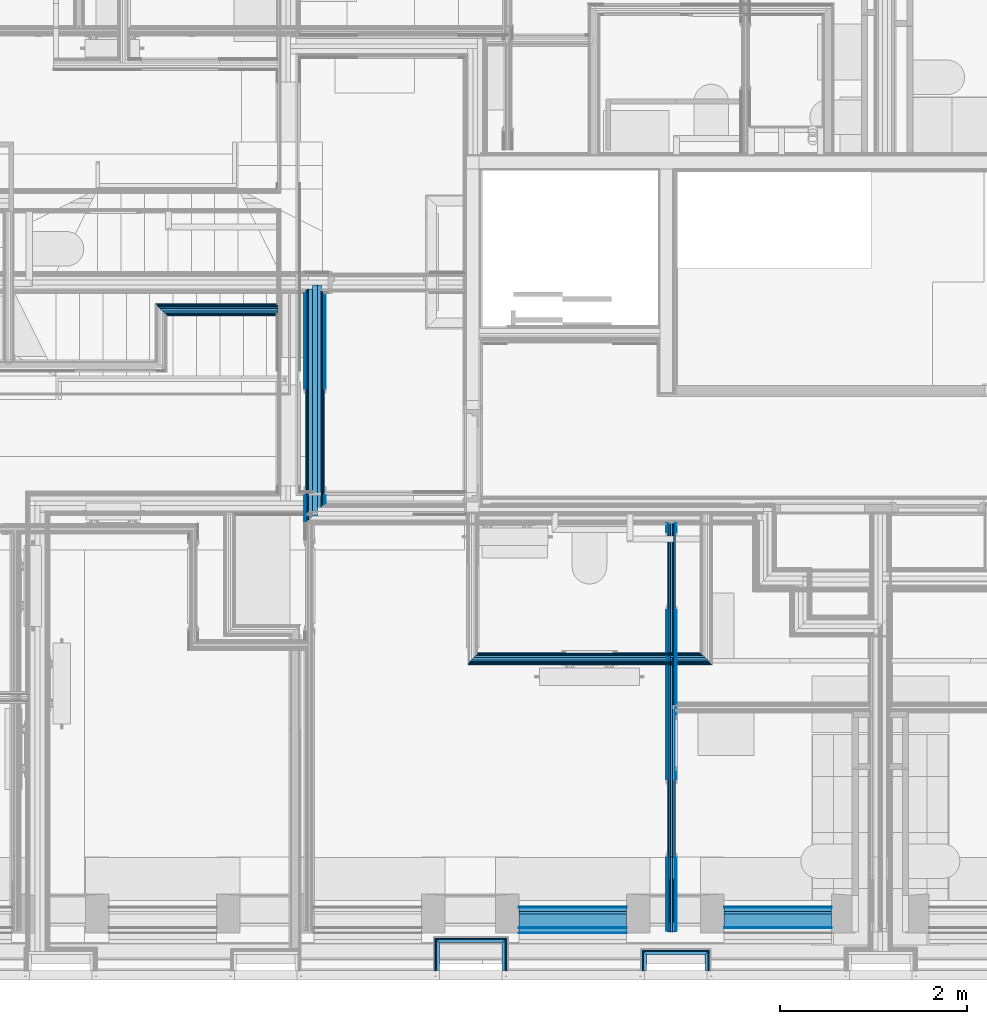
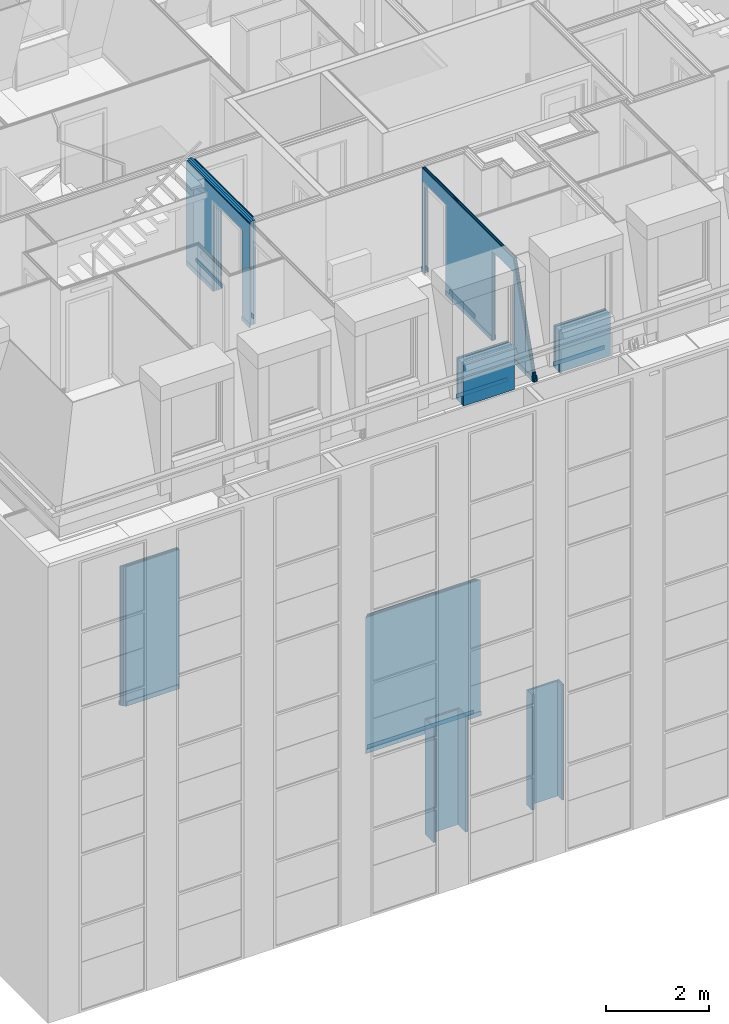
# One storey, part 19 of 169: 58 building element parts, 3 openings, 12 elements without a shape of their own.
"""IFC2X3 building model written with IfcOpenShell, lengths in metres."""

from ifc_helpers import new_model, entity, si_unit, converted_unit, derived_unit, money_unit, direction, frame, frame_2d, origin_with_axes, place, context, subcontext, project, spatial, polyline, rectangle, outline, extrude, clip, halfspace, material, type_object, element, aggregate, save


model = new_model("IFC2X3")

# Units and contexts
model_context = context("Model", 3, precision=1e-05, world=origin_with_axes(), true_north=direction((0.0, 1.0)))
body_context = subcontext(model_context, "Body", "Model", "MODEL_VIEW", scale=1.0)
ifc_project = project(units=[si_unit("LENGTHUNIT", "METRE"), si_unit("AREAUNIT", "SQUARE_METRE"), si_unit("VOLUMEUNIT", "CUBIC_METRE"), si_unit("ABSORBEDDOSEUNIT", "GRAY"), si_unit("AMOUNTOFSUBSTANCEUNIT", "MOLE"), si_unit("DOSEEQUIVALENTUNIT", "SIEVERT"), si_unit("ELECTRICCAPACITANCEUNIT", "FARAD"), si_unit("ELECTRICCHARGEUNIT", "COULOMB"), si_unit("ELECTRICCONDUCTANCEUNIT", "SIEMENS"), si_unit("ELECTRICCURRENTUNIT", "AMPERE"), si_unit("ELECTRICRESISTANCEUNIT", "OHM"), si_unit("ELECTRICVOLTAGEUNIT", "VOLT"), si_unit("ENERGYUNIT", "JOULE"), si_unit("FORCEUNIT", "NEWTON"), si_unit("FREQUENCYUNIT", "HERTZ"), si_unit("ILLUMINANCEUNIT", "LUX"), si_unit("INDUCTANCEUNIT", "HENRY"), si_unit("LUMINOUSFLUXUNIT", "LUMEN"), si_unit("LUMINOUSINTENSITYUNIT", "CANDELA"), si_unit("MAGNETICFLUXDENSITYUNIT", "TESLA"), si_unit("MAGNETICFLUXUNIT", "WEBER"), si_unit("MASSUNIT", "GRAM"), converted_unit("PLANEANGLEUNIT", "degree", entity("IfcReal", 0.0174532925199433), si_unit("PLANEANGLEUNIT", "RADIAN"), dimensions=[0, 0, 0, 0, 0, 0, 0]), si_unit("POWERUNIT", "WATT"), si_unit("PRESSUREUNIT", "PASCAL"), si_unit("RADIOACTIVITYUNIT", "BECQUEREL"), si_unit("SOLIDANGLEUNIT", "STERADIAN"), si_unit("THERMODYNAMICTEMPERATUREUNIT", "KELVIN"), si_unit("TIMEUNIT", "SECOND"), derived_unit("ACCELERATIONUNIT", [(si_unit("LENGTHUNIT", "METRE"), 1), (si_unit("TIMEUNIT", "SECOND"), -2)]), derived_unit("ANGULARVELOCITYUNIT", [(converted_unit("PLANEANGLEUNIT", "degree", entity("IfcReal", 0.0174532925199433), si_unit("PLANEANGLEUNIT", "RADIAN"), dimensions=[0, 0, 0, 0, 0, 0, 0]), 1), (si_unit("TIMEUNIT", "SECOND"), -1)]), derived_unit("CURVATUREUNIT", [(converted_unit("PLANEANGLEUNIT", "degree", entity("IfcReal", 0.0174532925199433), si_unit("PLANEANGLEUNIT", "RADIAN"), dimensions=[0, 0, 0, 0, 0, 0, 0]), 1), (si_unit("LENGTHUNIT", "METRE"), -1)]), derived_unit("DYNAMICVISCOSITYUNIT", [(si_unit("PRESSUREUNIT", "PASCAL"), 1), (si_unit("TIMEUNIT", "SECOND"), 1)]), derived_unit("HEATFLUXDENSITYUNIT", [(si_unit("POWERUNIT", "WATT"), 1), (si_unit("LENGTHUNIT", "METRE"), -2)]), derived_unit("HEATINGVALUEUNIT", [(si_unit("ENERGYUNIT", "JOULE"), 1), (si_unit("MASSUNIT", "GRAM"), -1)]), derived_unit("INTEGERCOUNTRATEUNIT", [(si_unit("TIMEUNIT", "SECOND"), -1)]), derived_unit("IONCONCENTRATIONUNIT", [(si_unit("MASSUNIT", "GRAM"), 1), (si_unit("VOLUMEUNIT", "CUBIC_METRE"), -1)]), derived_unit("ISOTHERMALMOISTURECAPACITYUNIT", [(si_unit("VOLUMEUNIT", "CUBIC_METRE"), 1), (si_unit("MASSUNIT", "GRAM"), -1)]), derived_unit("KINEMATICVISCOSITYUNIT", [(si_unit("AREAUNIT", "SQUARE_METRE"), 1), (si_unit("TIMEUNIT", "SECOND"), -1)]), derived_unit("LINEARFORCEUNIT", [(si_unit("FORCEUNIT", "NEWTON"), 1), (si_unit("LENGTHUNIT", "METRE"), -1)]), derived_unit("LINEARMOMENTUNIT", [(si_unit("FORCEUNIT", "NEWTON"), 1), (si_unit("LENGTHUNIT", "METRE"), -1)]), derived_unit("LINEARSTIFFNESSUNIT", [(si_unit("FORCEUNIT", "NEWTON"), 1), (si_unit("LENGTHUNIT", "METRE"), -1)]), derived_unit("LINEARVELOCITYUNIT", [(si_unit("LENGTHUNIT", "METRE"), 1), (si_unit("TIMEUNIT", "SECOND"), -1)]), derived_unit("LUMINOUSINTENSITYDISTRIBUTIONUNIT", [(si_unit("LUMINOUSINTENSITYUNIT", "CANDELA"), 1), (si_unit("LUMINOUSFLUXUNIT", "LUMEN"), -1)]), derived_unit("MASSDENSITYUNIT", [(si_unit("MASSUNIT", "GRAM"), 1), (si_unit("VOLUMEUNIT", "CUBIC_METRE"), -1)]), derived_unit("MASSFLOWRATEUNIT", [(si_unit("MASSUNIT", "GRAM"), 1), (si_unit("TIMEUNIT", "SECOND"), -1)]), derived_unit("MASSPERLENGTHUNIT", [(si_unit("MASSUNIT", "GRAM"), 1), (si_unit("LENGTHUNIT", "METRE"), -1)]), derived_unit("MODULUSOFELASTICITYUNIT", [(si_unit("FORCEUNIT", "NEWTON"), 1), (si_unit("AREAUNIT", "SQUARE_METRE"), -1)]), derived_unit("MODULUSOFLINEARSUBGRADEREACTIONUNIT", [(si_unit("FORCEUNIT", "NEWTON"), 1), (si_unit("LENGTHUNIT", "METRE"), -2)]), derived_unit("MODULUSOFROTATIONALSUBGRADEREACTIONUNIT", [(si_unit("FORCEUNIT", "NEWTON"), 1), (si_unit("LENGTHUNIT", "METRE"), 1)]), derived_unit("MODULUSOFSUBGRADEREACTIONUNIT", [(si_unit("FORCEUNIT", "NEWTON"), 1), (si_unit("VOLUMEUNIT", "CUBIC_METRE"), -1)]), derived_unit("MOISTUREDIFFUSIVITYUNIT", [(si_unit("VOLUMEUNIT", "CUBIC_METRE"), 1), (si_unit("TIMEUNIT", "SECOND"), -1)]), derived_unit("MOLECULARWEIGHTUNIT", [(si_unit("MASSUNIT", "GRAM"), 1), (si_unit("AMOUNTOFSUBSTANCEUNIT", "MOLE"), -1)]), derived_unit("PLANARFORCEUNIT", [(si_unit("FORCEUNIT", "NEWTON"), 1), (si_unit("LENGTHUNIT", "METRE"), -2)]), derived_unit("ROTATIONALFREQUENCYUNIT", [(si_unit("TIMEUNIT", "SECOND"), -1)]), derived_unit("ROTATIONALMASSUNIT", [(si_unit("MASSUNIT", "GRAM"), 1), (si_unit("LENGTHUNIT", "METRE"), 2)]), derived_unit("ROTATIONALSTIFFNESSUNIT", [(si_unit("FORCEUNIT", "NEWTON"), 1), (si_unit("LENGTHUNIT", "METRE"), 1), (converted_unit("PLANEANGLEUNIT", "degree", entity("IfcReal", 0.0174532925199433), si_unit("PLANEANGLEUNIT", "RADIAN"), dimensions=[0, 0, 0, 0, 0, 0, 0]), -1)]), derived_unit("SECTIONAREAINTEGRALUNIT", [(si_unit("LENGTHUNIT", "METRE"), 5)]), derived_unit("SECTIONMODULUSUNIT", [(si_unit("LENGTHUNIT", "METRE"), 3)]), derived_unit("SHEARMODULUSUNIT", [(si_unit("FORCEUNIT", "NEWTON"), 1), (si_unit("AREAUNIT", "SQUARE_METRE"), -1)]), derived_unit("SOUNDPOWERUNIT", [(si_unit("ENERGYUNIT", "JOULE"), 1), (si_unit("TIMEUNIT", "SECOND"), -1)]), derived_unit("SPECIFICHEATCAPACITYUNIT", [(si_unit("FORCEUNIT", "NEWTON"), 1), (si_unit("MASSUNIT", "GRAM"), -1), (si_unit("THERMODYNAMICTEMPERATUREUNIT", "KELVIN"), -1)]), derived_unit("TEMPERATUREGRADIENTUNIT", [(si_unit("THERMODYNAMICTEMPERATUREUNIT", "KELVIN"), 1), (si_unit("LENGTHUNIT", "METRE"), -1)]), derived_unit("THERMALADMITTANCEUNIT", [(si_unit("POWERUNIT", "WATT"), 1), (si_unit("AREAUNIT", "SQUARE_METRE"), -1), (si_unit("THERMODYNAMICTEMPERATUREUNIT", "KELVIN"), -1)]), derived_unit("THERMALCONDUCTANCEUNIT", [(si_unit("POWERUNIT", "WATT"), 1), (si_unit("LENGTHUNIT", "METRE"), -1), (si_unit("THERMODYNAMICTEMPERATUREUNIT", "KELVIN"), -1)]), derived_unit("THERMALEXPANSIONCOEFFICIENTUNIT", [(si_unit("THERMODYNAMICTEMPERATUREUNIT", "KELVIN"), -1)]), derived_unit("THERMALRESISTANCEUNIT", [(si_unit("AREAUNIT", "SQUARE_METRE"), 1), (si_unit("POWERUNIT", "WATT"), -1)]), derived_unit("THERMALTRANSMITTANCEUNIT", [(si_unit("POWERUNIT", "WATT"), 1), (si_unit("AREAUNIT", "SQUARE_METRE"), -1), (si_unit("THERMODYNAMICTEMPERATUREUNIT", "KELVIN"), -1)]), derived_unit("TORQUEUNIT", [(si_unit("FORCEUNIT", "NEWTON"), 1), (si_unit("LENGTHUNIT", "METRE"), 1)]), derived_unit("VAPORPERMEABILITYUNIT", [(si_unit("MASSUNIT", "GRAM"), 1), (si_unit("TIMEUNIT", "SECOND"), -1)]), derived_unit("VOLUMETRICFLOWRATEUNIT", [(si_unit("VOLUMEUNIT", "CUBIC_METRE"), 1), (si_unit("TIMEUNIT", "SECOND"), -1)]), derived_unit("WARPINGCONSTANTUNIT", [(si_unit("LENGTHUNIT", "METRE"), 6)]), derived_unit("WARPINGMOMENTUNIT", [(si_unit("FORCEUNIT", "NEWTON"), 1), (si_unit("LENGTHUNIT", "METRE"), 2)]), money_unit("GBP")], contexts=[model_context])

# Site, building, storey
site_placement = place(None, origin_with_axes())
site = spatial("IfcSite", under=ifc_project, at=site_placement, Name="Site", CompositionType="ELEMENT")
building_placement = place(site_placement, origin_with_axes())
building = spatial("IfcBuilding", under=site, at=building_placement, Name="Building01", CompositionType="ELEMENT")
storey_placement = place(building_placement, frame((0.0, 0.0, 5.15), z_axis=(0.0, 0.0, 1.0), x_axis=(1.0, 0.0, 0.0)))
storey = spatial("IfcBuildingStorey", under=building, at=storey_placement, Name="1F", CompositionType="ELEMENT", Elevation=5.15)

# Wall, building element parts
wall_type_1 = type_object("IfcWallType", Name="SHE_A-Walls_Type06d_ExternalWallInsulation_48mm", PredefinedType="NOTDEFINED")
wall_1_placement = place(storey_placement, frame((8.79, 0.1, 0.0), z_axis=(0.0, 0.0, 1.0), x_axis=(0.0, 1.0, 0.0)))
wall_1 = element("IfcWall", 1, at=wall_1_placement, inside=storey, type_object=wall_type_1, Name="6D", ObjectType="SHE_A-Walls_Type06d_ExternalWallInsulation_48mm")
ifc_material_1 = material(Name="A_BSUK_Insulation")
placement_1 = place(wall_1_placement, origin_with_axes())
building_element_part_1 = element("IfcBuildingElementPart", 2, at=placement_1, material=ifc_material_1, Name="1", context=body_context, shape_type="SweptSolid", body=[
    extrude(outline(polyline([(0.336, 0.036), (0.0, 0.036), (0.0, 0.0), (0.3, 0.0), (0.336, 0.036)])), origin_with_axes(), (0.0, 0.0, 1.0), 2.74),
])
ifc_material_2 = material(Name="A_BSUK_WallInternal_Finishes_Plasterboard")
building_element_part_2 = element("IfcBuildingElementPart", 3, at=placement_1, material=ifc_material_2, Name="2", context=body_context, shape_type="SweptSolid", body=[
    extrude(outline(polyline([(0.348, 0.048), (0.0, 0.048), (0.0, 0.035), (0.335, 0.035), (0.348, 0.048)])), origin_with_axes(), (0.0, 0.0, 1.0), 2.74),
])
aggregate(wall_1, [building_element_part_1, building_element_part_2])

wall_2_placement = place(storey_placement, frame((8.79, 0.4, 0.0), z_axis=(0.0, 0.0, 1.0), x_axis=(1.0, 0.0, 0.0)))
wall_2 = element("IfcWall", 4, at=wall_2_placement, inside=storey, type_object=wall_type_1, Name="6D", ObjectType="SHE_A-Walls_Type06d_ExternalWallInsulation_48mm")
placement_2 = place(wall_2_placement, origin_with_axes())
building_element_part_3 = element("IfcBuildingElementPart", 5, at=placement_2, material=ifc_material_1, Name="1", context=body_context, shape_type="SweptSolid", body=[
    extrude(outline(polyline([(0.706, 0.036), (-0.036, 0.036), (0.0, 0.0), (0.67, 0.0), (0.706, 0.036)])), origin_with_axes(), (0.0, 0.0, 1.0), 2.74),
])
building_element_part_4 = element("IfcBuildingElementPart", 6, at=placement_2, material=ifc_material_2, Name="2", context=body_context, shape_type="SweptSolid", body=[
    extrude(outline(polyline([(0.718, 0.048), (-0.048, 0.048), (-0.035, 0.035), (0.705, 0.035), (0.718, 0.048)])), origin_with_axes(), (0.0, 0.0, 1.0), 2.74),
])
aggregate(wall_2, [building_element_part_3, building_element_part_4])

wall_3_placement = place(storey_placement, frame((9.46, 0.4, 0.0), z_axis=(0.0, 0.0, 1.0), x_axis=(0.0, -1.0, 0.0)))
wall_3 = element("IfcWall", 7, at=wall_3_placement, inside=storey, type_object=wall_type_1, Name="6D", ObjectType="SHE_A-Walls_Type06d_ExternalWallInsulation_48mm")
placement_3 = place(wall_3_placement, origin_with_axes())
building_element_part_5 = element("IfcBuildingElementPart", 8, at=placement_3, material=ifc_material_1, Name="1", context=body_context, shape_type="SweptSolid", body=[
    extrude(outline(polyline([(-0.036, 0.036), (0.0, 0.0), (0.3, 0.0), (0.3, 0.036), (-0.036, 0.036)])), origin_with_axes(), (0.0, 0.0, 1.0), 2.74),
])
building_element_part_6 = element("IfcBuildingElementPart", 9, at=placement_3, material=ifc_material_2, Name="2", context=body_context, shape_type="SweptSolid", body=[
    extrude(outline(polyline([(-0.048, 0.048), (-0.035, 0.035), (0.3, 0.035), (0.3, 0.048), (-0.048, 0.048)])), origin_with_axes(), (0.0, 0.0, 1.0), 2.74),
])
aggregate(wall_3, [building_element_part_5, building_element_part_6])

wall_4_placement = place(storey_placement, frame((11.003, 0.1, 0.0), z_axis=(0.0, 0.0, 1.0), x_axis=(0.0, 1.0, 0.0)))
wall_4 = element("IfcWall", 10, at=wall_4_placement, inside=storey, type_object=wall_type_1, Name="6D", ObjectType="SHE_A-Walls_Type06d_ExternalWallInsulation_48mm")
placement_4 = place(wall_4_placement, origin_with_axes())
building_element_part_7 = element("IfcBuildingElementPart", 11, at=placement_4, material=ifc_material_1, Name="1", context=body_context, shape_type="SweptSolid", body=[
    extrude(outline(polyline([(0.206, 0.036), (0.0, 0.036), (0.0, 0.0), (0.17, 0.0), (0.206, 0.036)])), origin_with_axes(), (0.0, 0.0, 1.0), 2.74),
])
building_element_part_8 = element("IfcBuildingElementPart", 12, at=placement_4, material=ifc_material_2, Name="2", context=body_context, shape_type="SweptSolid", body=[
    extrude(outline(polyline([(0.218, 0.048), (0.0, 0.048), (0.0, 0.035), (0.205, 0.035), (0.218, 0.048)])), origin_with_axes(), (0.0, 0.0, 1.0), 2.74),
])
aggregate(wall_4, [building_element_part_7, building_element_part_8])

wall_5_placement = place(storey_placement, frame((11.003, 0.27, 0.0), z_axis=(0.0, 0.0, 1.0), x_axis=(1.0, 0.0, 0.0)))
wall_5 = element("IfcWall", 13, at=wall_5_placement, inside=storey, type_object=wall_type_1, Name="6D", ObjectType="SHE_A-Walls_Type06d_ExternalWallInsulation_48mm")
placement_5 = place(wall_5_placement, origin_with_axes())
building_element_part_9 = element("IfcBuildingElementPart", 14, at=placement_5, material=ifc_material_1, Name="1", context=body_context, shape_type="SweptSolid", body=[
    extrude(outline(polyline([(0.66, 0.036), (-0.036, 0.036), (0.0, 0.0), (0.624, 0.0), (0.66, 0.036)])), origin_with_axes(), (0.0, 0.0, 1.0), 2.74),
])
building_element_part_10 = element("IfcBuildingElementPart", 15, at=placement_5, material=ifc_material_2, Name="2", context=body_context, shape_type="SweptSolid", body=[
    extrude(outline(polyline([(0.672, 0.048), (-0.048, 0.048), (-0.035, 0.035), (0.659, 0.035), (0.672, 0.048)])), origin_with_axes(), (0.0, 0.0, 1.0), 2.74),
])
aggregate(wall_5, [building_element_part_9, building_element_part_10])

wall_6_placement = place(storey_placement, frame((11.627, 0.27, 0.0), z_axis=(0.0, 0.0, 1.0), x_axis=(0.0, -1.0, 0.0)))
wall_6 = element("IfcWall", 16, at=wall_6_placement, inside=storey, type_object=wall_type_1, Name="6D", ObjectType="SHE_A-Walls_Type06d_ExternalWallInsulation_48mm")
placement_6 = place(wall_6_placement, origin_with_axes())
building_element_part_11 = element("IfcBuildingElementPart", 17, at=placement_6, material=ifc_material_1, Name="1", context=body_context, shape_type="SweptSolid", body=[
    extrude(outline(polyline([(-0.036, 0.036), (0.0, 0.0), (0.17, 0.0), (0.17, 0.036), (-0.036, 0.036)])), origin_with_axes(), (0.0, 0.0, 1.0), 2.74),
])
building_element_part_12 = element("IfcBuildingElementPart", 18, at=placement_6, material=ifc_material_2, Name="2", context=body_context, shape_type="SweptSolid", body=[
    extrude(outline(polyline([(-0.048, 0.048), (-0.035, 0.035), (0.17, 0.035), (0.17, 0.048), (-0.048, 0.048)])), origin_with_axes(), (0.0, 0.0, 1.0), 2.74),
])
aggregate(wall_6, [building_element_part_11, building_element_part_12])

wall_type_2 = type_object("IfcWallType", Name="SHE_A-Walls_Type05a_Partition_95mm_tall", PredefinedType="NOTDEFINED")
wall_7_placement = place(storey_placement, frame((5.804669, 7.171475, 0.0), z_axis=(0.0, 0.0, 1.0), x_axis=(1.0, 0.0, 0.0)))
wall_7 = element("IfcWall", 19, at=wall_7_placement, inside=storey, type_object=wall_type_2, Name="5A", ObjectType="SHE_A-Walls_Type05a_Partition_95mm_tall")
ifc_material_3 = material(Name="A_BSUK_Walls_Timber")
placement_7 = place(wall_7_placement, origin_with_axes())
building_element_part_13 = element("IfcBuildingElementPart", 20, at=placement_7, material=ifc_material_3, Name="1", context=body_context, shape_type="SweptSolid", body=[
    extrude(outline(polyline([(1.245, -0.06), (0.06, -0.06), (0.075, -0.075), (1.245, -0.075), (1.245, -0.06)])), frame((0.0, 0.0, 0.015), z_axis=(0.0, 0.0, 1.0), x_axis=(1.0, 0.0, 0.0)), (0.0, 0.0, 1.0), 0.1),
])
building_element_part_14 = element("IfcBuildingElementPart", 21, at=placement_7, material=ifc_material_2, Name="2", context=body_context, shape_type="SweptSolid", body=[
    extrude(outline(polyline([(1.26, -0.048), (0.048, -0.048), (0.06, -0.06), (1.26, -0.06), (1.26, -0.048)])), origin_with_axes(), (0.0, 0.0, 1.0), 3.32),
])
ifc_material_4 = material(Name="Air Cavity")
building_element_part_15 = element("IfcBuildingElementPart", 22, at=placement_7, material=ifc_material_4, Name="3", context=body_context, shape_type="SweptSolid", body=[
    extrude(outline(polyline([(1.26, -0.025), (0.025, -0.025), (0.048, -0.048), (1.26, -0.048), (1.26, -0.025)])), origin_with_axes(), (0.0, 0.0, 1.0), 3.32),
])
building_element_part_16 = element("IfcBuildingElementPart", 23, at=placement_7, material=ifc_material_1, Name="4", context=body_context, shape_type="SweptSolid", body=[
    extrude(outline(polyline([(1.26, 0.0), (0.0, 0.0), (0.025, -0.025), (1.26, -0.025), (1.26, 0.0)])), origin_with_axes(), (0.0, 0.0, 1.0), 3.32),
])
building_element_part_17 = element("IfcBuildingElementPart", 24, at=placement_7, material=ifc_material_4, Name="5", context=body_context, shape_type="SweptSolid", body=[
    extrude(outline(polyline([(1.26, 0.023), (-0.023, 0.023), (0.0, 0.0), (1.26, 0.0), (1.26, 0.023)])), origin_with_axes(), (0.0, 0.0, 1.0), 3.32),
])
building_element_part_18 = element("IfcBuildingElementPart", 25, at=placement_7, material=ifc_material_2, Name="6", context=body_context, shape_type="SweptSolid", body=[
    extrude(outline(polyline([(1.26, 0.035), (-0.035, 0.035), (-0.023, 0.023), (1.26, 0.023), (1.26, 0.035)])), origin_with_axes(), (0.0, 0.0, 1.0), 3.32),
])
building_element_part_19 = element("IfcBuildingElementPart", 26, at=placement_7, material=ifc_material_3, Name="7", context=body_context, shape_type="SweptSolid", body=[
    extrude(outline(polyline([(1.245, 0.05), (-0.05, 0.05), (-0.035, 0.035), (1.245, 0.035), (1.245, 0.05)])), frame((0.0, 0.0, 0.015), z_axis=(0.0, 0.0, 1.0), x_axis=(1.0, 0.0, 0.0)), (0.0, 0.0, 1.0), 0.1),
])
aggregate(wall_7, [building_element_part_13, building_element_part_14, building_element_part_15, building_element_part_16, building_element_part_17, building_element_part_18, building_element_part_19])

wall_8_placement = place(storey_placement, frame((9.132536, 3.42, 0.0), z_axis=(0.0, 0.0, 1.0), x_axis=(-1.0, 0.0, 0.0)))
wall_8 = element("IfcWall", 27, at=wall_8_placement, inside=storey, type_object=wall_type_2, Name="5A", ObjectType="SHE_A-Walls_Type05a_Partition_95mm_tall")
placement_8 = place(wall_8_placement, origin_with_axes())
building_element_part_20 = element("IfcBuildingElementPart", 28, at=placement_8, material=ifc_material_3, Name="1", context=body_context, shape_type="SweptSolid", body=[
    extrude(outline(polyline([(-2.445, -0.075), (-0.06, -0.075), (-0.06, -0.06), (-2.46, -0.06), (-2.445, -0.075)])), frame((0.0, 0.0, 0.015), z_axis=(0.0, 0.0, 1.0), x_axis=(1.0, 0.0, 0.0)), (0.0, 0.0, 1.0), 0.1),
])
building_element_part_21 = element("IfcBuildingElementPart", 29, at=placement_8, material=ifc_material_2, Name="2", context=body_context, shape_type="SweptSolid", body=[
    extrude(outline(polyline([(-2.46, -0.06), (-0.06, -0.06), (-0.048, -0.048), (-2.472, -0.048), (-2.46, -0.06)])), origin_with_axes(), (0.0, 0.0, 1.0), 3.24),
])
building_element_part_22 = element("IfcBuildingElementPart", 30, at=placement_8, material=ifc_material_4, Name="3", context=body_context, shape_type="SweptSolid", body=[
    extrude(outline(polyline([(-2.472, -0.048), (-0.048, -0.048), (-0.025, -0.025), (-2.495, -0.025), (-2.472, -0.048)])), origin_with_axes(), (0.0, 0.0, 1.0), 3.24),
])
building_element_part_23 = element("IfcBuildingElementPart", 31, at=placement_8, material=ifc_material_1, Name="4", context=body_context, shape_type="SweptSolid", body=[
    extrude(outline(polyline([(-2.495, -0.025), (-0.025, -0.025), (0.0, 0.0), (-2.52, 0.0), (-2.495, -0.025)])), origin_with_axes(), (0.0, 0.0, 1.0), 3.24),
])
building_element_part_24 = element("IfcBuildingElementPart", 32, at=placement_8, material=ifc_material_4, Name="5", context=body_context, shape_type="SweptSolid", body=[
    extrude(outline(polyline([(-2.52, 0.0), (0.0, 0.0), (0.023, 0.023), (-2.543, 0.023), (-2.52, 0.0)])), origin_with_axes(), (0.0, 0.0, 1.0), 3.24),
])
building_element_part_25 = element("IfcBuildingElementPart", 33, at=placement_8, material=ifc_material_2, Name="6", context=body_context, shape_type="SweptSolid", body=[
    extrude(outline(polyline([(-2.543, 0.023), (0.023, 0.023), (0.035, 0.035), (-2.555, 0.035), (-2.543, 0.023)])), origin_with_axes(), (0.0, 0.0, 1.0), 3.24),
])
building_element_part_26 = element("IfcBuildingElementPart", 34, at=placement_8, material=ifc_material_3, Name="7", context=body_context, shape_type="SweptSolid", body=[
    extrude(outline(polyline([(-2.555, 0.035), (0.035, 0.035), (0.035, 0.05), (-2.57, 0.05), (-2.555, 0.035)])), frame((0.0, 0.0, 0.015), z_axis=(0.0, 0.0, 1.0), x_axis=(1.0, 0.0, 0.0)), (0.0, 0.0, 1.0), 0.1),
])
aggregate(wall_8, [building_element_part_20, building_element_part_21, building_element_part_22, building_element_part_23, building_element_part_24, building_element_part_25, building_element_part_26])

# Wall, opening, building element parts
wall_type_3 = type_object("IfcWallType", Name="SHE_A-Walls_Type01d_Partywall_200mm_twin", PredefinedType="NOTDEFINED")
wall_9_placement = place(storey_placement, frame((7.435, 7.425061, 9.83), z_axis=(0.0, 0.0, 1.0), x_axis=(0.0, -1.0, 0.0)))
wall_9 = element("IfcWall", 35, at=wall_9_placement, inside=storey, type_object=wall_type_3, Name="1D", ObjectType="SHE_A-Walls_Type01d_Partywall_200mm_twin")
opening_1_placement = place(wall_9_placement, frame((1.111061, -0.09, 0.0), z_axis=(0.0, 0.0, 1.0), x_axis=(1.0, 0.0, 0.0)))
element("IfcOpeningElement", 36, at=opening_1_placement, cuts=wall_9, Name="Opening", ObjectType="Opening", context=body_context, shape_type="SweptSolid", body=[
    extrude(rectangle(XDim=1.134, YDim=2.142, at=frame_2d((-0.567, 1.071), x_axis=(-1.0, 0.0))), frame((0.0, 0.0, 0.0), z_axis=(0.0, 1.0, 0.0), x_axis=(-1.0, 0.0, 0.0)), (0.0, 0.0, 1.0), 0.23),
])
placement_9 = place(wall_9_placement, origin_with_axes())
building_element_part_27 = element("IfcBuildingElementPart", 37, at=placement_9, material=ifc_material_3, Name="1", context=body_context, shape_type="SweptSolid", body=[
    extrude(outline(polyline([(2.545061, -0.075), (0.09, -0.075), (0.09, -0.09), (2.560061, -0.09), (2.545061, -0.075)])), frame((0.0, 0.0, 0.015), z_axis=(0.0, 0.0, 1.0), x_axis=(1.0, 0.0, 0.0)), (0.0, 0.0, 1.0), 0.1),
])
building_element_part_28 = element("IfcBuildingElementPart", 38, at=placement_9, material=ifc_material_2, Name="2", context=body_context, shape_type="SweptSolid", body=[
    extrude(outline(polyline([(2.530061, -0.06), (0.060121, -0.06), (0.060121, -0.075), (2.545061, -0.075), (2.530061, -0.06)])), origin_with_axes(), (0.0, 0.0, 1.0), 2.468),
])
building_element_part_29 = element("IfcBuildingElementPart", 39, at=placement_9, material=ifc_material_2, Name="3", context=body_context, shape_type="SweptSolid", body=[
    extrude(outline(polyline([(2.515061, -0.045), (0.045121, -0.045), (0.045121, -0.06), (2.530061, -0.06), (2.515061, -0.045)])), origin_with_axes(), (0.0, 0.0, 1.0), 2.468),
])
building_element_part_30 = element("IfcBuildingElementPart", 40, at=placement_9, material=ifc_material_4, Name="4", context=body_context, shape_type="SweptSolid", body=[
    extrude(outline(polyline([(2.470061, 0.0), (0.045121, 0.0), (0.045121, -0.045), (2.515061, -0.045), (2.470061, 0.0)])), origin_with_axes(), (0.0, 0.0, 1.0), 2.468),
])
building_element_part_31 = element("IfcBuildingElementPart", 41, at=placement_9, material=ifc_material_1, Name="5", context=body_context, shape_type="SweptSolid", body=[
    extrude(rectangle(XDim=2.470061, YDim=0.05, at=frame_2d((1.23503, 0.025), x_axis=(-1.0, 0.0))), origin_with_axes(), (0.0, 0.0, 1.0), 2.468),
])
building_element_part_32 = element("IfcBuildingElementPart", 42, at=placement_9, material=ifc_material_4, Name="6", context=body_context, shape_type="SweptSolid", body=[
    extrude(rectangle(XDim=2.470061, YDim=0.045, at=frame_2d((1.23503, 0.0725), x_axis=(-1.0, 0.0))), origin_with_axes(), (0.0, 0.0, 1.0), 2.468),
])
building_element_part_33 = element("IfcBuildingElementPart", 43, at=placement_9, material=ifc_material_2, Name="7", context=body_context, shape_type="SweptSolid", body=[
    extrude(outline(polyline([(2.360061, 0.11), (0.060121, 0.11), (0.060121, 0.095), (2.375061, 0.095), (2.360061, 0.11)])), origin_with_axes(), (0.0, 0.0, 1.0), 2.468),
])
building_element_part_34 = element("IfcBuildingElementPart", 44, at=placement_9, material=ifc_material_2, Name="8", context=body_context, shape_type="SweptSolid", body=[
    extrude(outline(polyline([(2.345061, 0.125), (0.075121, 0.125), (0.075121, 0.11), (2.360061, 0.11), (2.345061, 0.125)])), origin_with_axes(), (0.0, 0.0, 1.0), 2.468),
])
building_element_part_35 = element("IfcBuildingElementPart", 45, at=placement_9, material=ifc_material_3, Name="9", context=body_context, shape_type="SweptSolid", body=[
    extrude(outline(polyline([(2.330061, 0.14), (0.090121, 0.14), (0.090121, 0.125), (2.345061, 0.125), (2.330061, 0.14)])), frame((0.0, 0.0, 0.015), z_axis=(0.0, 0.0, 1.0), x_axis=(1.0, 0.0, 0.0)), (0.0, 0.0, 1.0), 0.1),
])
aggregate(wall_9, [building_element_part_27, building_element_part_28, building_element_part_29, building_element_part_30, building_element_part_31, building_element_part_32, building_element_part_33, building_element_part_34, building_element_part_35])

# Wall, building element parts
wall_type_4 = type_object("IfcWallType", Name="SHE_A-Walls_Type06e_ExternalWallPenthouse_280mm", PredefinedType="NOTDEFINED")
wall_10_placement = place(storey_placement, frame((12.979976, 0.565, 9.83), z_axis=(0.0, 0.0, 1.0), x_axis=(-1.0, 0.0, 0.0)))
wall_10 = element("IfcWall", 46, at=wall_10_placement, inside=storey, type_object=wall_type_4, Name="6E", ObjectType="SHE_A-Walls_Type06e_ExternalWallPenthouse_280mm")
placement_10 = place(wall_10_placement, origin_with_axes())
building_element_part_36 = element("IfcBuildingElementPart", 47, at=placement_10, material=ifc_material_3, Name="1", context=body_context, shape_type="SweptSolid", body=[
    extrude(rectangle(XDim=1.149951, YDim=0.015, at=frame_2d((0.574976, -0.2225), x_axis=(-1.0, 0.0))), frame((0.0, 0.0, 0.015), z_axis=(0.0, 0.0, 1.0), x_axis=(1.0, 0.0, 0.0)), (0.0, 0.0, 1.0), 0.1),
])
building_element_part_37 = element("IfcBuildingElementPart", 48, at=placement_10, material=ifc_material_2, Name="2", context=body_context, shape_type="SweptSolid", body=[
    extrude(rectangle(XDim=1.149951, YDim=0.01, at=frame_2d((0.574976, -0.21), x_axis=(-1.0, 0.0))), origin_with_axes(), (0.0, 0.0, 1.0), 1.0),
])
building_element_part_38 = element("IfcBuildingElementPart", 49, at=placement_10, material=ifc_material_1, Name="3", context=body_context, shape_type="SweptSolid", body=[
    extrude(rectangle(XDim=1.149951, YDim=0.04, at=frame_2d((0.574976, -0.185), x_axis=(-1.0, 0.0))), origin_with_axes(), (0.0, 0.0, 1.0), 1.0),
])
building_element_part_39 = element("IfcBuildingElementPart", 50, at=placement_10, material=ifc_material_4, Name="4", context=body_context, shape_type="SweptSolid", body=[
    extrude(rectangle(XDim=1.149951, YDim=0.025, at=frame_2d((0.574976, -0.1525), x_axis=(-1.0, 0.0))), origin_with_axes(), (0.0, 0.0, 1.0), 1.0),
])
building_element_part_40 = element("IfcBuildingElementPart", 51, at=placement_10, material=ifc_material_1, Name="5", context=body_context, shape_type="SweptSolid", body=[
    extrude(rectangle(XDim=1.149951, YDim=0.14, at=frame_2d((0.574976, -0.07), x_axis=(-1.0, 0.0))), origin_with_axes(), (0.0, 0.0, 1.0), 1.0),
])
building_element_part_41 = element("IfcBuildingElementPart", 52, at=placement_10, material=ifc_material_3, Name="6", context=body_context, shape_type="SweptSolid", body=[
    extrude(rectangle(XDim=1.149951, YDim=0.01, at=frame_2d((0.574976, 0.005), x_axis=(-1.0, 0.0))), origin_with_axes(), (0.0, 0.0, 1.0), 1.0),
])
aggregate(wall_10, [building_element_part_36, building_element_part_37, building_element_part_38, building_element_part_39, building_element_part_40, building_element_part_41])

wall_11_placement = place(storey_placement, frame((10.789976, 0.565, 9.83), z_axis=(0.0, 0.0, 1.0), x_axis=(-1.0, 0.0, 0.0)))
wall_11 = element("IfcWall", 53, at=wall_11_placement, inside=storey, type_object=wall_type_4, Name="6E", ObjectType="SHE_A-Walls_Type06e_ExternalWallPenthouse_280mm")
placement_11 = place(wall_11_placement, origin_with_axes())
building_element_part_42 = element("IfcBuildingElementPart", 54, at=placement_11, material=ifc_material_3, Name="1", context=body_context, shape_type="SweptSolid", body=[
    extrude(rectangle(XDim=1.149951, YDim=0.015, at=frame_2d((0.574976, -0.2225), x_axis=(-1.0, 0.0))), frame((0.0, 0.0, 0.015), z_axis=(0.0, 0.0, 1.0), x_axis=(1.0, 0.0, 0.0)), (0.0, 0.0, 1.0), 0.1),
])
building_element_part_43 = element("IfcBuildingElementPart", 55, at=placement_11, material=ifc_material_2, Name="2", context=body_context, shape_type="SweptSolid", body=[
    extrude(rectangle(XDim=1.149951, YDim=0.01, at=frame_2d((0.574976, -0.21), x_axis=(-1.0, 0.0))), origin_with_axes(), (0.0, 0.0, 1.0), 1.0),
])
building_element_part_44 = element("IfcBuildingElementPart", 56, at=placement_11, material=ifc_material_1, Name="3", context=body_context, shape_type="SweptSolid", body=[
    extrude(rectangle(XDim=1.149951, YDim=0.04, at=frame_2d((0.574976, -0.185), x_axis=(-1.0, 0.0))), origin_with_axes(), (0.0, 0.0, 1.0), 1.0),
])
building_element_part_45 = element("IfcBuildingElementPart", 57, at=placement_11, material=ifc_material_4, Name="4", context=body_context, shape_type="SweptSolid", body=[
    extrude(rectangle(XDim=1.149951, YDim=0.025, at=frame_2d((0.574976, -0.1525), x_axis=(-1.0, 0.0))), origin_with_axes(), (0.0, 0.0, 1.0), 1.0),
])
building_element_part_46 = element("IfcBuildingElementPart", 58, at=placement_11, material=ifc_material_1, Name="5", context=body_context, shape_type="SweptSolid", body=[
    extrude(rectangle(XDim=1.149951, YDim=0.14, at=frame_2d((0.574976, -0.07), x_axis=(-1.0, 0.0))), origin_with_axes(), (0.0, 0.0, 1.0), 1.0),
])
building_element_part_47 = element("IfcBuildingElementPart", 59, at=placement_11, material=ifc_material_3, Name="6", context=body_context, shape_type="SweptSolid", body=[
    extrude(rectangle(XDim=1.149951, YDim=0.01, at=frame_2d((0.574976, 0.005), x_axis=(-1.0, 0.0))), origin_with_axes(), (0.0, 0.0, 1.0), 1.0),
])
building_element_part_48 = element("IfcBuildingElementPart", 60, at=placement_11, material=ifc_material_4, Name="7", context=body_context, shape_type="SweptSolid", body=[
    extrude(rectangle(XDim=1.149951, YDim=0.05, at=frame_2d((0.574976, 0.035), x_axis=(-1.0, 0.0))), origin_with_axes(), (0.0, 0.0, 1.0), 1.0),
])
ifc_material_5 = material(Name="A_BSUK_WallInternal_Finishes_Metal")
building_element_part_49 = element("IfcBuildingElementPart", 61, at=placement_11, material=ifc_material_5, Name="8", context=body_context, shape_type="SweptSolid", body=[
    extrude(rectangle(XDim=1.149951, YDim=0.005, at=frame_2d((0.574976, 0.0625), x_axis=(-1.0, 0.0))), origin_with_axes(), (0.0, 0.0, 1.0), 1.0),
])
aggregate(wall_11, [building_element_part_42, building_element_part_43, building_element_part_44, building_element_part_45, building_element_part_46, building_element_part_47, building_element_part_48, building_element_part_49])

# Wall, openings, building element parts
wall_type_5 = type_object("IfcWallType", Name="SHE_A-Walls_Type05b_Partition_80mm", PredefinedType="NOTDEFINED")
wall_12_placement = place(storey_placement, frame((11.257, 4.88, 9.83), z_axis=(0.0, 0.0, 1.0), x_axis=(0.0, -1.0, 0.0)))
wall_12 = element("IfcWall", 62, at=wall_12_placement, inside=storey, type_object=wall_type_5, Name="5B", ObjectType="SHE_A-Walls_Type05b_Partition_80mm")
opening_2_placement = place(wall_12_placement, frame((0.098239, -0.042, 0.0), z_axis=(0.0, 0.0, 1.0), x_axis=(1.0, 0.0, 0.0)))
element("IfcOpeningElement", 63, at=opening_2_placement, cuts=wall_12, Name="Opening", ObjectType="Opening", context=body_context, shape_type="SweptSolid", body=[
    extrude(rectangle(XDim=0.834, YDim=2.142, at=frame_2d((-0.417, 1.071), x_axis=(-1.0, 0.0))), frame((0.0, 0.0, 0.0), z_axis=(0.0, 1.0, 0.0), x_axis=(-1.0, 0.0, 0.0)), (0.0, 0.0, 1.0), 0.11),
])
opening_3_placement = place(wall_12_placement, frame((2.738061, -0.042, 0.0), z_axis=(0.0, 0.0, 1.0), x_axis=(1.0, 0.0, 0.0)))
element("IfcOpeningElement", 64, at=opening_3_placement, cuts=wall_12, Name="Opening", ObjectType="Opening", context=body_context, shape_type="SweptSolid", body=[
    extrude(rectangle(XDim=0.834, YDim=2.142, at=frame_2d((-0.417, 1.071), x_axis=(-1.0, 0.0))), frame((0.0, 0.0, 0.0), z_axis=(0.0, 1.0, 0.0), x_axis=(-1.0, 0.0, 0.0)), (0.0, 0.0, 1.0), 0.11),
])
placement_12 = place(wall_12_placement, origin_with_axes())
building_element_part_50 = element("IfcBuildingElementPart", 65, at=placement_12, material=ifc_material_3, Name="1", context=body_context, shape_type="Clipping", body=[
    clip(extrude(rectangle(XDim=4.361784, YDim=0.015, at=frame_2d((2.180892, -0.0345), x_axis=(-1.0, 0.0))), frame((0.0, 0.0, 0.015), z_axis=(0.0, 0.0, 1.0), x_axis=(1.0, 0.0, 0.0)), (0.0, 0.0, 1.0), 0.1), halfspace(frame((3.949679, 0.0, 1.283329), z_axis=(-0.95105652, 0.0, -0.30901699), x_axis=(0.0, -1.0, 0.0)), True)),
])
building_element_part_51 = element("IfcBuildingElementPart", 66, at=placement_12, material=ifc_material_2, Name="2", context=body_context, shape_type="Clipping", body=[
    clip(extrude(rectangle(XDim=4.366658, YDim=0.015, at=frame_2d((2.183329, -0.0195), x_axis=(-1.0, 0.0))), origin_with_axes(), (0.0, 0.0, 1.0), 2.468), halfspace(frame((3.949679, 0.0, 1.283329), z_axis=(-0.95105652, 0.0, -0.30901699), x_axis=(0.0, -1.0, 0.0)), True)),
])
building_element_part_52 = element("IfcBuildingElementPart", 67, at=placement_12, material=ifc_material_4, Name="3", context=body_context, shape_type="Clipping", body=[
    clip(extrude(rectangle(XDim=4.366658, YDim=0.012, at=frame_2d((2.183329, -0.006), x_axis=(-1.0, 0.0))), origin_with_axes(), (0.0, 0.0, 1.0), 2.468), halfspace(frame((3.949679, 0.0, 1.283329), z_axis=(-0.95105652, 0.0, -0.30901699), x_axis=(0.0, -1.0, 0.0)), True)),
])
building_element_part_53 = element("IfcBuildingElementPart", 68, at=placement_12, material=ifc_material_1, Name="4", context=body_context, shape_type="Clipping", body=[
    clip(extrude(rectangle(XDim=4.366658, YDim=0.025, at=frame_2d((2.183329, 0.0125), x_axis=(-1.0, 0.0))), origin_with_axes(), (0.0, 0.0, 1.0), 2.468), halfspace(frame((3.949679, 0.0, 1.283329), z_axis=(-0.95105652, 0.0, -0.30901699), x_axis=(0.0, -1.0, 0.0)), True)),
])
building_element_part_54 = element("IfcBuildingElementPart", 69, at=placement_12, material=ifc_material_4, Name="5", context=body_context, shape_type="Clipping", body=[
    clip(extrude(rectangle(XDim=4.366658, YDim=0.013, at=frame_2d((2.183329, 0.0315), x_axis=(-1.0, 0.0))), origin_with_axes(), (0.0, 0.0, 1.0), 2.468), halfspace(frame((3.949679, 0.0, 1.283329), z_axis=(-0.95105652, 0.0, -0.30901699), x_axis=(0.0, -1.0, 0.0)), True)),
])
building_element_part_55 = element("IfcBuildingElementPart", 70, at=placement_12, material=ifc_material_2, Name="6", context=body_context, shape_type="SweptSolid", body=[
    extrude(rectangle(XDim=1.945239, YDim=0.015, at=frame_2d((0.972619, 0.0455), x_axis=(-1.0, 0.0))), origin_with_axes(), (0.0, 0.0, 1.0), 2.468),
])
building_element_part_56 = element("IfcBuildingElementPart", 71, at=placement_12, material=ifc_material_2, Name="7", context=body_context, shape_type="Clipping", body=[
    clip(extrude(rectangle(XDim=4.366658, YDim=0.015, at=frame_2d((2.183329, 0.0455), x_axis=(-1.0, 0.0))), origin_with_axes(), (0.0, 0.0, 1.0), 2.468), halfspace(frame((3.949679, 0.0, 1.283329), z_axis=(-0.95105652, 0.0, -0.30901699), x_axis=(0.0, -1.0, 0.0)), True)),
])
building_element_part_57 = element("IfcBuildingElementPart", 72, at=placement_12, material=ifc_material_3, Name="8", context=body_context, shape_type="SweptSolid", body=[
    extrude(rectangle(XDim=1.930239, YDim=0.015, at=frame_2d((0.965119, 0.0605), x_axis=(-1.0, 0.0))), frame((0.0, 0.0, 0.015), z_axis=(0.0, 0.0, 1.0), x_axis=(1.0, 0.0, 0.0)), (0.0, 0.0, 1.0), 0.1),
])
building_element_part_58 = element("IfcBuildingElementPart", 73, at=placement_12, material=ifc_material_3, Name="9", context=body_context, shape_type="Clipping", body=[
    clip(extrude(rectangle(XDim=4.361784, YDim=0.015, at=frame_2d((2.180892, 0.0605), x_axis=(-1.0, 0.0))), frame((0.0, 0.0, 0.015), z_axis=(0.0, 0.0, 1.0), x_axis=(1.0, 0.0, 0.0)), (0.0, 0.0, 1.0), 0.1), halfspace(frame((3.949679, 0.0, 1.283329), z_axis=(-0.95105652, 0.0, -0.30901699), x_axis=(0.0, -1.0, 0.0)), True)),
])
aggregate(wall_12, [building_element_part_50, building_element_part_51, building_element_part_52, building_element_part_53, building_element_part_54, building_element_part_55, building_element_part_56, building_element_part_57, building_element_part_58])

save(model, "model.ifc")
